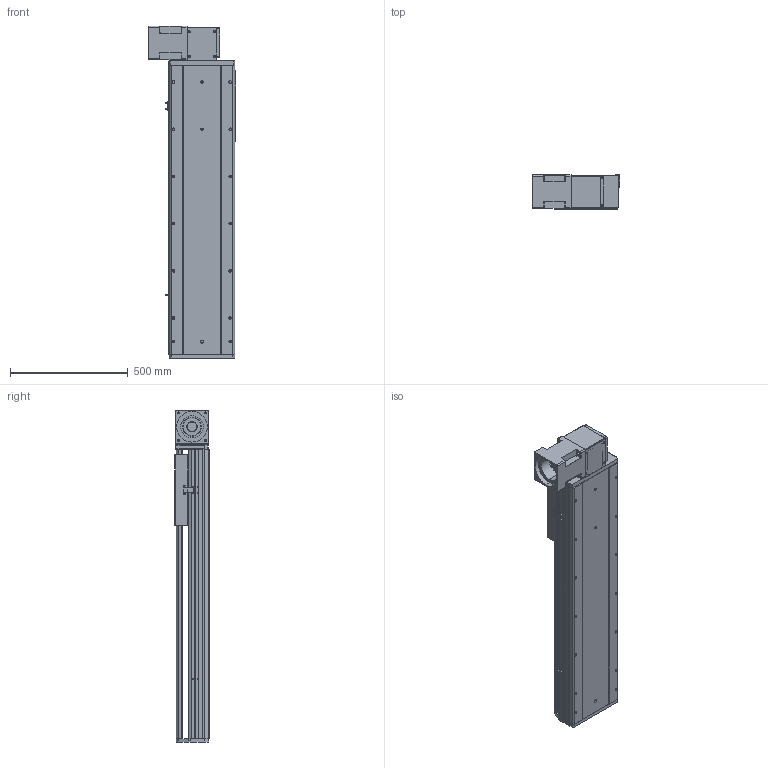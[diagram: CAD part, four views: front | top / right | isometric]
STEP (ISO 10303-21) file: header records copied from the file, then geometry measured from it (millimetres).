
FILE_DESCRIPTION (( 'STEP AP214' ), '1' );
FILE_NAME ('RTB28R-XX-800-BR-M100-XX-C4.STEP', '2025-12-22T01:09:14', ( '' ), ( '' ), 'SwSTEP 2.0', 'SolidWorks 2018', '' );
FILE_SCHEMA (( 'AUTOMOTIVE_DESIGN' ));
Length unit declared in the file: millimetre
Products named in the file (4): RTB28S-GY-008^RTB28R-XX-XX-BR-M100-XX-C4; RTB28S-GY-011^RTB28R-XX-XX-BR-M100-XX-C4; RTB28S-GY-004^RTB28R-XX-XX-BR-M100-XX-C4; RTB28R-XX-800-BR-M100-XX-C4
Assembly tree (3 placements, depth 2):
  RTB28R-XX-800-BR-M100-XX-C4
    RTB28S-GY-011^RTB28R-XX-XX-BR-M100-XX-C4
    RTB28S-GY-004^RTB28R-XX-XX-BR-M100-XX-C4
    RTB28S-GY-008^RTB28R-XX-XX-BR-M100-XX-C4
Bounding box: 370 x 145 x 1407 mm (x, y, z)
Volume: 26461775.9 mm3; surface area: 2577836.1 mm2
Topology: 3 solids, 4 shells, 978 faces, 2580 edges, 1656 vertices
Faces by surface type: plane 454, cylinder 353, bspline 87, cone 80, torus 4
Entity records: 41716 total; most frequent: CARTESIAN_POINT 11095, ORIENTED_EDGE 5096, DIRECTION 4932, EDGE_CURVE 2548, AXIS2_PLACEMENT_3D 1685, VERTEX_POINT 1656, VECTOR 1562, LINE 1562
